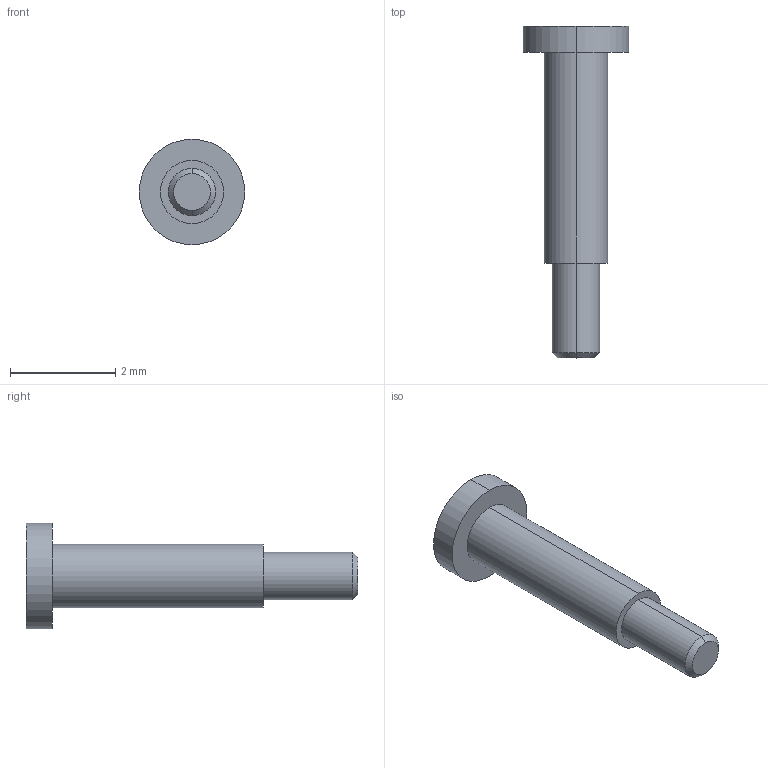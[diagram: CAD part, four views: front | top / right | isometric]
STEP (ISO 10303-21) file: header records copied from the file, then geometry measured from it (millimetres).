
FILE_DESCRIPTION((''),'2;1');
FILE_NAME('_V_L_ANY_PRT','2008-06-30T',('GRA'),(''),'PRO/ENGINEER BY PARAMETRIC TECHNOLOGY CORPORATION, 2006170','PRO/ENGINEER BY PARAMETRIC TECHNOLOGY CORPORATION, 2006170','');
FILE_SCHEMA(('CONFIG_CONTROL_DESIGN'));
Length unit declared in the file: millimetre
Products named in the file (1): _V_L_ANY_PRT
Bounding box: 2 x 6.3 x 2 mm (x, y, z)
Volume: 7.2 mm3; surface area: 29.4 mm2
Topology: 1 solids, 1 shells, 12 faces, 22 edges, 14 vertices
Faces by surface type: cylinder 6, plane 4, cone 2
Entity records: 342 total; most frequent: DIRECTION 60, CARTESIAN_POINT 48, ORIENTED_EDGE 44, AXIS2_PLACEMENT_3D 26, EDGE_CURVE 22, VERTEX_POINT 14, EDGE_LOOP 14, CIRCLE 14
